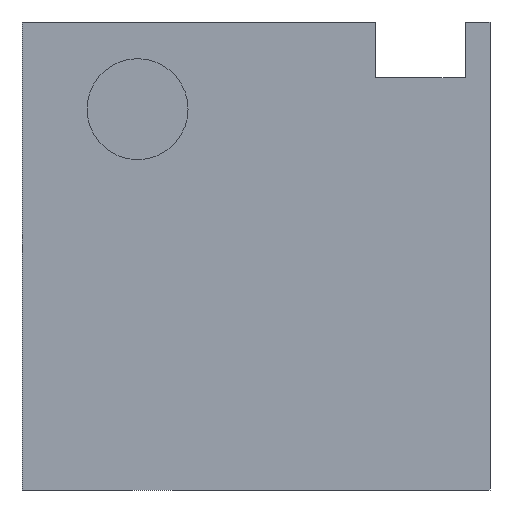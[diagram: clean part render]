
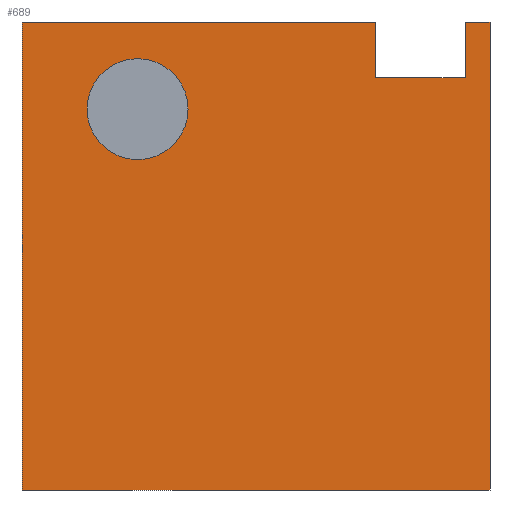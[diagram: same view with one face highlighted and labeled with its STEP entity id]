
A CAD part, left-side view. The second image highlights one B-rep face of the part: STEP entity #689.
In plain terms, the highlighted planar face has unit normal (-1, 0, 0).
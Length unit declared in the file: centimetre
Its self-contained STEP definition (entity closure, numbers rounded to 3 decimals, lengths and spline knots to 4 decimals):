
#12 = DIRECTION ( 'NONE',  ( 0., -1., 0. ) ) ;
#26 = ORIENTED_EDGE ( 'NONE', *, *, #625, .F. ) ;
#29 = CARTESIAN_POINT ( 'NONE',  ( 0., 1000., 0. ) ) ;
#30 = EDGE_CURVE ( 'NONE', #873, #1037, #1312, .T. ) ;
#45 = VERTEX_POINT ( 'NONE', #280 ) ;
#121 = DIRECTION ( 'NONE',  ( 0., -1., 0. ) ) ;
#138 = CARTESIAN_POINT ( 'NONE',  ( 0., 53.0136, 880.8935 ) ) ;
#144 = DIRECTION ( 'NONE',  ( 0., 0., -1. ) ) ;
#170 = DIRECTION ( 'NONE',  ( 0., -1., 0. ) ) ;
#176 = CARTESIAN_POINT ( 'NONE',  ( 0., 53.0136, 880.8935 ) ) ;
#196 = PLANE ( 'NONE',  #1177 ) ;
#235 = VECTOR ( 'NONE', #598, 100. ) ;
#247 = ORIENTED_EDGE ( 'NONE', *, *, #1296, .F. ) ;
#252 = CIRCLE ( 'NONE', #1018, 107.9111 ) ;
#267 = DIRECTION ( 'NONE',  ( -1., 0., 0. ) ) ;
#280 = CARTESIAN_POINT ( 'NONE',  ( 0., 244.7615, 880.8935 ) ) ;
#308 = EDGE_CURVE ( 'NONE', #1352, #1039, #1017, .T. ) ;
#309 = DIRECTION ( 'NONE',  ( 0., 0., -1. ) ) ;
#323 = CARTESIAN_POINT ( 'NONE',  ( 0., 53.0136, 880.8935 ) ) ;
#327 = ORIENTED_EDGE ( 'NONE', *, *, #30, .F. ) ;
#389 = CARTESIAN_POINT ( 'NONE',  ( 0., 753.0198, 813.7712 ) ) ;
#432 = EDGE_CURVE ( 'NONE', #451, #1141, #1065, .T. ) ;
#451 = VERTEX_POINT ( 'NONE', #557 ) ;
#458 = CARTESIAN_POINT ( 'NONE',  ( 0., 0., 1000. ) ) ;
#502 = DIRECTION ( 'NONE',  ( 0., 0., 1. ) ) ;
#505 = EDGE_CURVE ( 'NONE', #873, #451, #892, .T. ) ;
#513 = CARTESIAN_POINT ( 'NONE',  ( 0., 1000., 1000. ) ) ;
#529 = CARTESIAN_POINT ( 'NONE',  ( 0., 0., 0. ) ) ;
#555 = CARTESIAN_POINT ( 'NONE',  ( 0., 1000., 1000. ) ) ;
#557 = CARTESIAN_POINT ( 'NONE',  ( 0., 1000., 0. ) ) ;
#565 = LINE ( 'NONE', #176, #235 ) ;
#566 = EDGE_CURVE ( 'NONE', #1211, #1103, #565, .T. ) ;
#598 = DIRECTION ( 'NONE',  ( 0., 0., -1. ) ) ;
#605 = ORIENTED_EDGE ( 'NONE', *, *, #1291, .F. ) ;
#607 = CARTESIAN_POINT ( 'NONE',  ( 0., 1000., 1000. ) ) ;
#611 = CARTESIAN_POINT ( 'NONE',  ( 0., 753.0198, 813.7712 ) ) ;
#625 = EDGE_CURVE ( 'NONE', #1039, #1352, #252, .T. ) ;
#633 = DIRECTION ( 'NONE',  ( 1., 0., 0. ) ) ;
#636 = CARTESIAN_POINT ( 'NONE',  ( 0., 244.7615, 880.8935 ) ) ;
#640 = DIRECTION ( 'NONE',  ( 0., 0., 1. ) ) ;
#689 = ADVANCED_FACE ( 'NONE', ( #719, #1363 ), #196, .F. ) ;
#719 = FACE_BOUND ( 'NONE', #1256, .T. ) ;
#736 = VECTOR ( 'NONE', #640, 100. ) ;
#752 = LINE ( 'NONE', #555, #777 ) ;
#762 = VECTOR ( 'NONE', #144, 100. ) ;
#777 = VECTOR ( 'NONE', #121, 100. ) ;
#803 = CARTESIAN_POINT ( 'NONE',  ( 0., 1000., 1000. ) ) ;
#807 = EDGE_CURVE ( 'NONE', #1103, #45, #885, .T. ) ;
#808 = VECTOR ( 'NONE', #1288, 100. ) ;
#813 = EDGE_LOOP ( 'NONE', ( #605, #1011, #1317, #1243, #327, #1221, #1027, #247 ) ) ;
#840 = VERTEX_POINT ( 'NONE', #458 ) ;
#851 = CARTESIAN_POINT ( 'NONE',  ( 0., 53.0136, 1000. ) ) ;
#873 = VERTEX_POINT ( 'NONE', #803 ) ;
#885 = LINE ( 'NONE', #138, #808 ) ;
#892 = LINE ( 'NONE', #607, #762 ) ;
#936 = VECTOR ( 'NONE', #12, 100. ) ;
#970 = LINE ( 'NONE', #1172, #1230 ) ;
#984 = CARTESIAN_POINT ( 'NONE',  ( 0., 753.0198, 705.86 ) ) ;
#998 = VECTOR ( 'NONE', #170, 100. ) ;
#1011 = ORIENTED_EDGE ( 'NONE', *, *, #566, .T. ) ;
#1017 = CIRCLE ( 'NONE', #1067, 107.9111 ) ;
#1018 = AXIS2_PLACEMENT_3D ( 'NONE', #389, #267, #1020 ) ;
#1020 = DIRECTION ( 'NONE',  ( 0., 0., 1. ) ) ;
#1027 = ORIENTED_EDGE ( 'NONE', *, *, #432, .T. ) ;
#1032 = CARTESIAN_POINT ( 'NONE',  ( 0., 244.7615, 1000. ) ) ;
#1037 = VERTEX_POINT ( 'NONE', #1032 ) ;
#1039 = VERTEX_POINT ( 'NONE', #1242 ) ;
#1053 = DIRECTION ( 'NONE',  ( -1., 0., 0. ) ) ;
#1065 = LINE ( 'NONE', #29, #936 ) ;
#1067 = AXIS2_PLACEMENT_3D ( 'NONE', #611, #1053, #502 ) ;
#1076 = DIRECTION ( 'NONE',  ( 0., 0., -1. ) ) ;
#1103 = VERTEX_POINT ( 'NONE', #323 ) ;
#1141 = VERTEX_POINT ( 'NONE', #529 ) ;
#1162 = LINE ( 'NONE', #636, #736 ) ;
#1172 = CARTESIAN_POINT ( 'NONE',  ( 0., 0., 1000. ) ) ;
#1177 = AXIS2_PLACEMENT_3D ( 'NONE', #513, #633, #309 ) ;
#1194 = CARTESIAN_POINT ( 'NONE',  ( 0., 1000., 1000. ) ) ;
#1211 = VERTEX_POINT ( 'NONE', #851 ) ;
#1221 = ORIENTED_EDGE ( 'NONE', *, *, #505, .T. ) ;
#1230 = VECTOR ( 'NONE', #1076, 100. ) ;
#1242 = CARTESIAN_POINT ( 'NONE',  ( 0., 753.0198, 921.6823 ) ) ;
#1243 = ORIENTED_EDGE ( 'NONE', *, *, #1257, .T. ) ;
#1256 = EDGE_LOOP ( 'NONE', ( #26, #1316 ) ) ;
#1257 = EDGE_CURVE ( 'NONE', #45, #1037, #1162, .T. ) ;
#1288 = DIRECTION ( 'NONE',  ( 0., 1., 0. ) ) ;
#1291 = EDGE_CURVE ( 'NONE', #1211, #840, #752, .T. ) ;
#1296 = EDGE_CURVE ( 'NONE', #840, #1141, #970, .T. ) ;
#1312 = LINE ( 'NONE', #1194, #998 ) ;
#1316 = ORIENTED_EDGE ( 'NONE', *, *, #308, .F. ) ;
#1317 = ORIENTED_EDGE ( 'NONE', *, *, #807, .T. ) ;
#1352 = VERTEX_POINT ( 'NONE', #984 ) ;
#1363 = FACE_OUTER_BOUND ( 'NONE', #813, .T. ) ;
